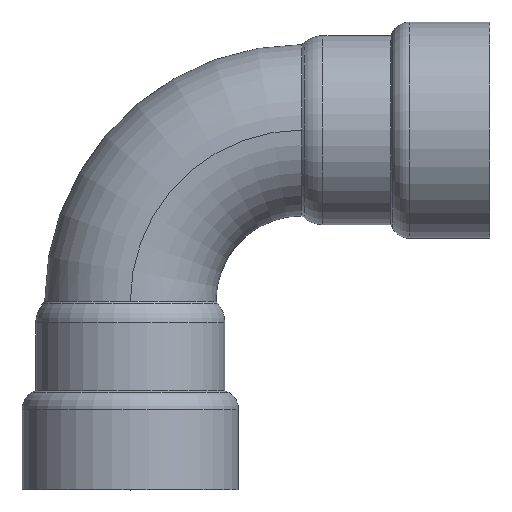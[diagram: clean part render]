
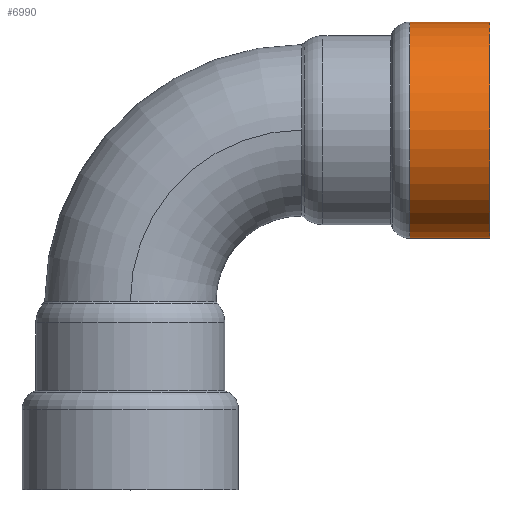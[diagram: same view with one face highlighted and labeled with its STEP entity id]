
A CAD part, top view. The second image highlights one B-rep face of the part: STEP entity #6990.
In plain terms, the highlighted cylindrical face has radius 18.95 mm (diameter 37.9 mm), a partial arc.
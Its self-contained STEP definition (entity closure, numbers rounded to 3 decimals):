
#6150=CARTESIAN_POINT('',(122.812,58.238,
0.));
#6160=VERTEX_POINT('',#6150);
#6190=CARTESIAN_POINT('',(122.812,39.288,
0.));
#6200=DIRECTION('',(1.,0.,0.));
#6210=DIRECTION('',(0.,-1.,0.));
#6220=AXIS2_PLACEMENT_3D('',#6190,#6200,#6210);
#6230=CIRCLE('',#6220,18.95);
#6240=CARTESIAN_POINT('',(122.812,20.338,0.
));
#6250=VERTEX_POINT('',#6240);
#6260=EDGE_CURVE('',#6160,#6250,#6230,.T.);
#6440=CARTESIAN_POINT('',(123.77,58.238,
0.));
#6450=DIRECTION('',(-1.,0.,0.));
#6460=VECTOR('',#6450,1.);
#6470=LINE('',#6440,#6460);
#6480=CARTESIAN_POINT('',(136.839,58.238,0.
));
#6490=VERTEX_POINT('',#6480);
#6500=EDGE_CURVE('',#6490,#6160,#6470,.T.);
#6540=CARTESIAN_POINT('',(123.77,20.338,
0.));
#6550=DIRECTION('',(-1.,0.,0.));
#6560=VECTOR('',#6550,1.);
#6570=LINE('',#6540,#6560);
#6580=CARTESIAN_POINT('',(136.839,20.338,0.)
);
#6590=VERTEX_POINT('',#6580);
#6600=EDGE_CURVE('',#6590,#6250,#6570,.T.);
#6620=CARTESIAN_POINT('',(136.839,39.288,0.
));
#6630=DIRECTION('',(-1.,0.,0.));
#6640=DIRECTION('',(0.,-1.,0.));
#6650=AXIS2_PLACEMENT_3D('',#6620,#6630,#6640);
#6660=CIRCLE('',#6650,18.95);
#6820=EDGE_CURVE('',#6590,#6490,#6660,.T.);
#6880=CARTESIAN_POINT('',(123.77,39.288,
0.));
#6890=DIRECTION('',(-1.,0.,0.));
#6900=DIRECTION('',(0.,-1.,0.));
#6910=AXIS2_PLACEMENT_3D('',#6880,#6890,#6900);
#6920=CYLINDRICAL_SURFACE('',#6910,18.95);
#6930=ORIENTED_EDGE('',*,*,#6500,.T.);
#6940=ORIENTED_EDGE('',*,*,#6820,.T.);
#6950=ORIENTED_EDGE('',*,*,#6600,.F.);
#6960=ORIENTED_EDGE('',*,*,#6260,.T.);
#6970=EDGE_LOOP('',(#6960,#6950,#6940,#6930));
#6980=FACE_OUTER_BOUND('',#6970,.T.);
#6990=ADVANCED_FACE('',(#6980),#6920,.T.);
